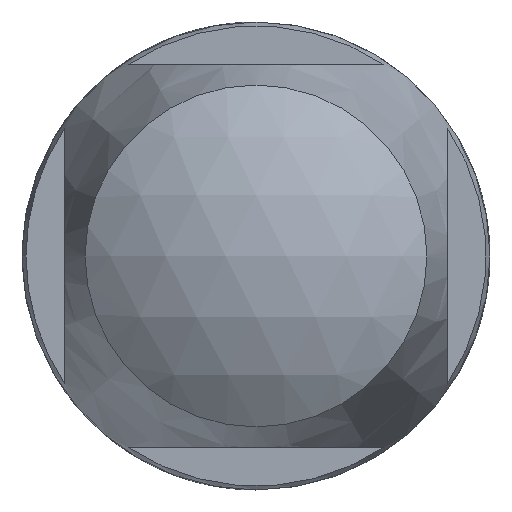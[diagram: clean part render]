
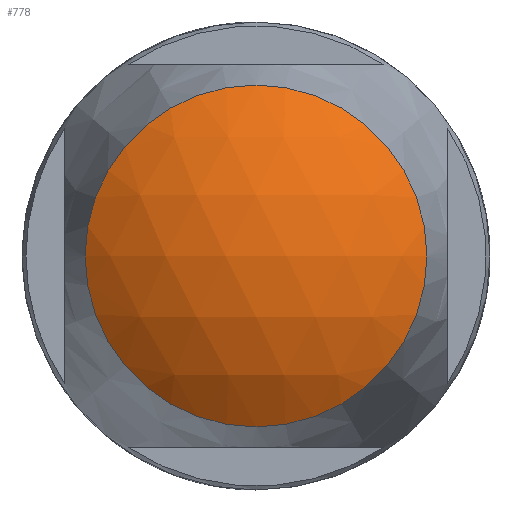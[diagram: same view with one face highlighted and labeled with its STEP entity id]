
A CAD part, front view. The second image highlights one B-rep face of the part: STEP entity #778.
In plain terms, the highlighted spherical face has radius 9.429 mm.
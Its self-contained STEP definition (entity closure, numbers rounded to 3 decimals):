
#19=SPHERICAL_SURFACE('',#861,9.429);
#263=FACE_OUTER_BOUND('',#324,.T.);
#324=EDGE_LOOP('',(#705));
#364=CIRCLE('',#862,5.806);
#434=VERTEX_POINT('',#1514);
#532=EDGE_CURVE('',#434,#434,#364,.T.);
#705=ORIENTED_EDGE('',*,*,#532,.F.);
#778=ADVANCED_FACE('',(#263),#19,.T.);
#861=AXIS2_PLACEMENT_3D('',#1513,#1073,#1074);
#862=AXIS2_PLACEMENT_3D('',#1515,#1075,#1076);
#1073=DIRECTION('center_axis',(0.,0.,1.));
#1074=DIRECTION('ref_axis',(1.,0.,0.));
#1075=DIRECTION('center_axis',(0.,1.,0.));
#1076=DIRECTION('ref_axis',(-1.,0.,0.));
#1513=CARTESIAN_POINT('Origin',(0.,-33.571,
0.));
#1514=CARTESIAN_POINT('',(-5.806,-41.,0.));
#1515=CARTESIAN_POINT('Origin',(0.,-41.,0.));
